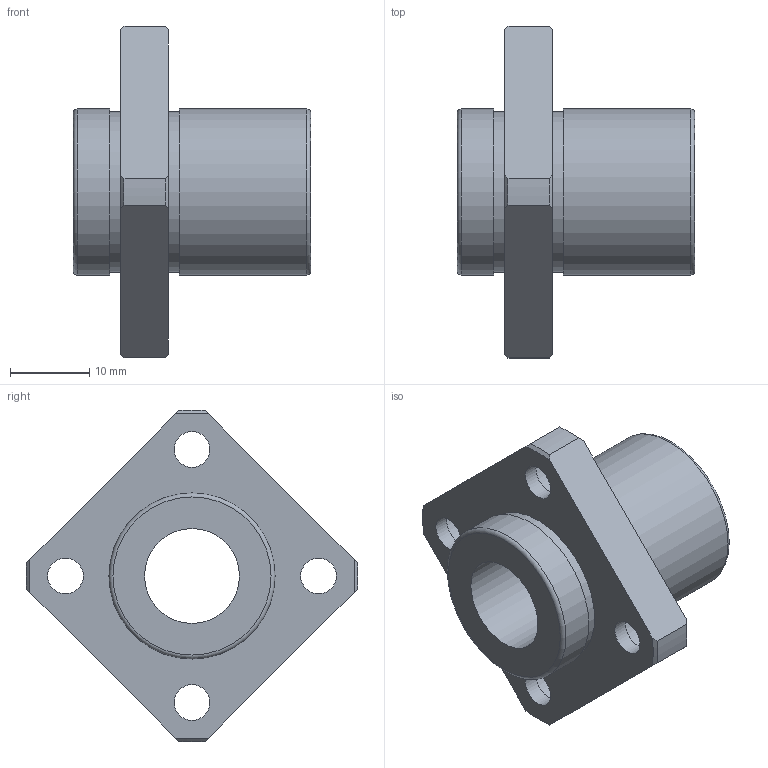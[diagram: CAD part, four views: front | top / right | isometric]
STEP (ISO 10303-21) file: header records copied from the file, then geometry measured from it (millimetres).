
FILE_DESCRIPTION(('STEP AP203'),'1');
FILE_NAME('//192.168.1.1/share/s-4 技術開発/s-4-4_CAD/s-4-4-3_見直し済み/002 修正済み/NFIS-V/NFIS-V_TOP/NFIS-12VUU.step','2022-03-08T02:23:45',(' '),(' '),'Spatial InterOp 3D',' ',' ');
FILE_SCHEMA(('CONFIG_CONTROL_DESIGN'));
Length unit declared in the file: millimetre
Products named in the file (1): 1
Bounding box: 30 x 41.98 x 41.98 mm (x, y, z)
Volume: 10080.1 mm3; surface area: 5663.7 mm2
Topology: 1 solids, 1 shells, 41 faces, 99 edges, 68 vertices
Faces by surface type: cylinder 17, plane 14, cone 8, torus 2
Full cylindrical faces by diameter (mm): 4.5 x4, 7.5 x4, 12 x1, 20.3 x2, 21 x2
Entity records: 1158 total; most frequent: CARTESIAN_POINT 226, DIRECTION 188, ORIENTED_EDGE 152, AXIS2_PLACEMENT_3D 86, EDGE_CURVE 76, EDGE_LOOP 74, VERTEX_POINT 60, FACE_OUTER_BOUND 56
